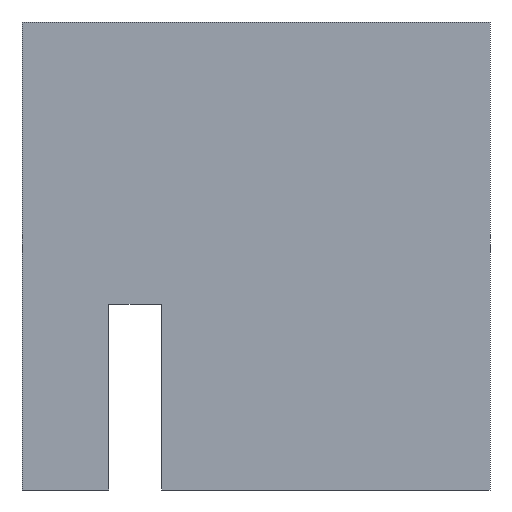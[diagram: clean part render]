
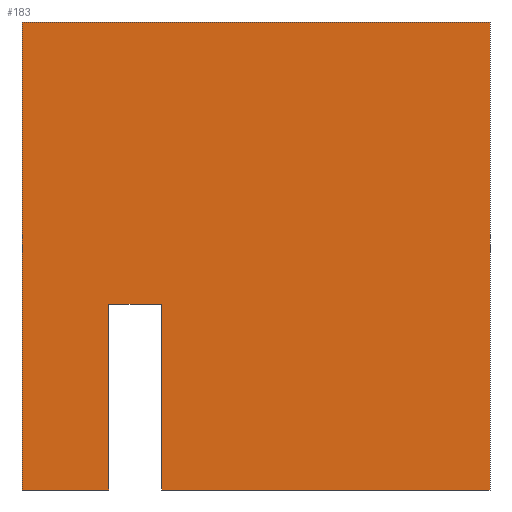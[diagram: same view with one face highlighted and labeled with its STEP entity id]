
A CAD part, front view. The second image highlights one B-rep face of the part: STEP entity #183.
In plain terms, the highlighted planar face has unit normal (0, -1, 0).
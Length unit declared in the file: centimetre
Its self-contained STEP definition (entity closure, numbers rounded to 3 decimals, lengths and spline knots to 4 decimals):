
#5 = VECTOR ( 'NONE', #476, 100. ) ;
#9 = CARTESIAN_POINT ( 'NONE',  ( 0., 0., 0. ) ) ;
#19 = VECTOR ( 'NONE', #394, 100. ) ;
#28 = CARTESIAN_POINT ( 'NONE',  ( 0., 0., 1000. ) ) ;
#29 = VERTEX_POINT ( 'NONE', #9 ) ;
#41 = LINE ( 'NONE', #201, #373 ) ;
#42 = VERTEX_POINT ( 'NONE', #384 ) ;
#64 = DIRECTION ( 'NONE',  ( 0., 1., 0. ) ) ;
#73 = ORIENTED_EDGE ( 'NONE', *, *, #137, .F. ) ;
#76 = VECTOR ( 'NONE', #278, 100. ) ;
#81 = ORIENTED_EDGE ( 'NONE', *, *, #205, .T. ) ;
#83 = ORIENTED_EDGE ( 'NONE', *, *, #235, .T. ) ;
#85 = VERTEX_POINT ( 'NONE', #423 ) ;
#101 = VERTEX_POINT ( 'NONE', #215 ) ;
#105 = VECTOR ( 'NONE', #523, 100. ) ;
#106 = PLANE ( 'NONE',  #344 ) ;
#125 = VECTOR ( 'NONE', #437, 100. ) ;
#131 = VERTEX_POINT ( 'NONE', #260 ) ;
#137 = EDGE_CURVE ( 'NONE', #42, #85, #519, .T. ) ;
#143 = DIRECTION ( 'NONE',  ( 0., 0., 1. ) ) ;
#150 = CARTESIAN_POINT ( 'NONE',  ( 298.1807, 0., 0. ) ) ;
#157 = VECTOR ( 'NONE', #441, 100. ) ;
#166 = EDGE_CURVE ( 'NONE', #305, #343, #470, .T. ) ;
#181 = FACE_OUTER_BOUND ( 'NONE', #451, .T. ) ;
#183 = ADVANCED_FACE ( 'NONE', ( #181 ), #106, .F. ) ;
#186 = EDGE_CURVE ( 'NONE', #131, #101, #356, .T. ) ;
#189 = LINE ( 'NONE', #150, #105 ) ;
#193 = ORIENTED_EDGE ( 'NONE', *, *, #186, .T. ) ;
#201 = CARTESIAN_POINT ( 'NONE',  ( 0., 0., 0. ) ) ;
#205 = EDGE_CURVE ( 'NONE', #343, #131, #189, .T. ) ;
#215 = CARTESIAN_POINT ( 'NONE',  ( 1000., 0., 0. ) ) ;
#227 = CARTESIAN_POINT ( 'NONE',  ( 0., 0., 0. ) ) ;
#235 = EDGE_CURVE ( 'NONE', #314, #305, #478, .T. ) ;
#238 = LINE ( 'NONE', #490, #76 ) ;
#255 = CARTESIAN_POINT ( 'NONE',  ( 0., 0., 1000. ) ) ;
#260 = CARTESIAN_POINT ( 'NONE',  ( 298.1807, 0., 0. ) ) ;
#278 = DIRECTION ( 'NONE',  ( 0., 0., -1. ) ) ;
#305 = VERTEX_POINT ( 'NONE', #411 ) ;
#307 = CARTESIAN_POINT ( 'NONE',  ( 0., 0., 1000. ) ) ;
#314 = VERTEX_POINT ( 'NONE', #361 ) ;
#320 = CARTESIAN_POINT ( 'NONE',  ( 298.1807, 0., 397.2364 ) ) ;
#324 = ORIENTED_EDGE ( 'NONE', *, *, #474, .T. ) ;
#325 = CARTESIAN_POINT ( 'NONE',  ( 185.1244, 0., 0. ) ) ;
#330 = DIRECTION ( 'NONE',  ( 0., 0., -1. ) ) ;
#343 = VERTEX_POINT ( 'NONE', #320 ) ;
#344 = AXIS2_PLACEMENT_3D ( 'NONE', #28, #64, #143 ) ;
#356 = LINE ( 'NONE', #227, #19 ) ;
#360 = ORIENTED_EDGE ( 'NONE', *, *, #374, .F. ) ;
#361 = CARTESIAN_POINT ( 'NONE',  ( 185.1244, 0., 0. ) ) ;
#365 = DIRECTION ( 'NONE',  ( 1., 0., 0. ) ) ;
#373 = VECTOR ( 'NONE', #365, 100. ) ;
#374 = EDGE_CURVE ( 'NONE', #85, #101, #238, .T. ) ;
#377 = EDGE_CURVE ( 'NONE', #29, #314, #41, .T. ) ;
#384 = CARTESIAN_POINT ( 'NONE',  ( 0., 0., 1000. ) ) ;
#392 = ORIENTED_EDGE ( 'NONE', *, *, #166, .T. ) ;
#394 = DIRECTION ( 'NONE',  ( 1., 0., 0. ) ) ;
#410 = ORIENTED_EDGE ( 'NONE', *, *, #377, .T. ) ;
#411 = CARTESIAN_POINT ( 'NONE',  ( 185.1244, 0., 397.2364 ) ) ;
#415 = LINE ( 'NONE', #255, #458 ) ;
#423 = CARTESIAN_POINT ( 'NONE',  ( 1000., 0., 1000. ) ) ;
#429 = CARTESIAN_POINT ( 'NONE',  ( 185.1244, 0., 397.2364 ) ) ;
#437 = DIRECTION ( 'NONE',  ( 1., 0., 0. ) ) ;
#441 = DIRECTION ( 'NONE',  ( 0., 0., 1. ) ) ;
#451 = EDGE_LOOP ( 'NONE', ( #410, #83, #392, #81, #193, #360, #73, #324 ) ) ;
#458 = VECTOR ( 'NONE', #330, 100. ) ;
#470 = LINE ( 'NONE', #429, #125 ) ;
#474 = EDGE_CURVE ( 'NONE', #42, #29, #415, .T. ) ;
#476 = DIRECTION ( 'NONE',  ( 1., 0., 0. ) ) ;
#478 = LINE ( 'NONE', #325, #157 ) ;
#490 = CARTESIAN_POINT ( 'NONE',  ( 1000., 0., 1000. ) ) ;
#519 = LINE ( 'NONE', #307, #5 ) ;
#523 = DIRECTION ( 'NONE',  ( 0., 0., -1. ) ) ;
